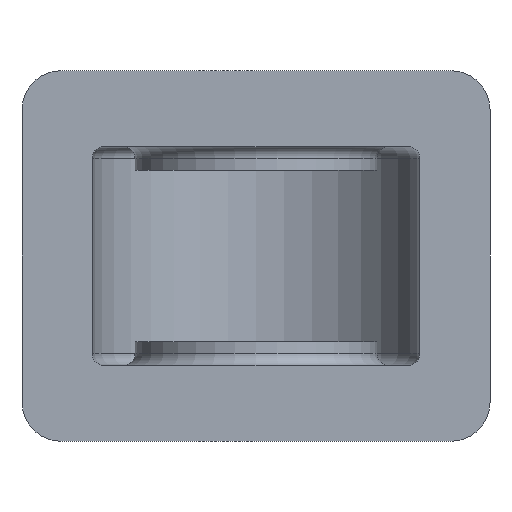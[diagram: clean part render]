
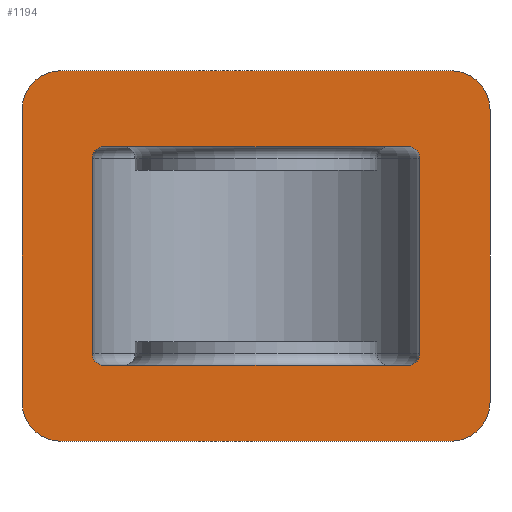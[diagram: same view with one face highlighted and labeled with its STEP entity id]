
A CAD part, front view. The second image highlights one B-rep face of the part: STEP entity #1194.
In plain terms, the highlighted planar face has unit normal (0, -1, 0).
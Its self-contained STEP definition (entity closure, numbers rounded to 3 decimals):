
#26=LINE('',#1964,#78);
#29=LINE('',#1972,#81);
#46=LINE('',#2056,#98);
#49=LINE('',#2073,#101);
#54=LINE('',#2098,#106);
#56=LINE('',#2104,#108);
#62=LINE('',#2135,#114);
#64=LINE('',#2139,#116);
#78=VECTOR('',#1584,10.);
#81=VECTOR('',#1593,10.);
#98=VECTOR('',#1688,10.);
#101=VECTOR('',#1705,10.);
#106=VECTOR('',#1736,10.);
#108=VECTOR('',#1744,10.);
#114=VECTOR('',#1784,10.);
#116=VECTOR('',#1790,10.);
#156=PLANE('',#1396);
#238=FACE_BOUND('',#454,.T.);
#324=FACE_OUTER_BOUND('',#453,.T.);
#453=EDGE_LOOP('',(#1083,#1084,#1085,#1086,#1087,#1088,#1089,#1090));
#454=EDGE_LOOP('',(#1091,#1092,#1093,#1094,#1095,#1096,#1097,#1098));
#502=CIRCLE('',#1300,10.);
#503=CIRCLE('',#1303,10.);
#535=CIRCLE('',#1362,10.);
#536=CIRCLE('',#1365,10.);
#538=CIRCLE('',#1369,3.);
#541=CIRCLE('',#1374,3.);
#543=CIRCLE('',#1377,3.);
#546=CIRCLE('',#1382,3.);
#598=VERTEX_POINT('',#1956);
#599=VERTEX_POINT('',#1958);
#600=VERTEX_POINT('',#1962);
#601=VERTEX_POINT('',#1966);
#602=VERTEX_POINT('',#1970);
#628=VERTEX_POINT('',#2050);
#630=VERTEX_POINT('',#2054);
#635=VERTEX_POINT('',#2067);
#637=VERTEX_POINT('',#2071);
#643=VERTEX_POINT('',#2092);
#644=VERTEX_POINT('',#2096);
#645=VERTEX_POINT('',#2100);
#647=VERTEX_POINT('',#2108);
#649=VERTEX_POINT('',#2116);
#651=VERTEX_POINT('',#2122);
#653=VERTEX_POINT('',#2130);
#711=EDGE_CURVE('',#598,#599,#502,.T.);
#714=EDGE_CURVE('',#600,#598,#26,.T.);
#716=EDGE_CURVE('',#601,#600,#503,.T.);
#718=EDGE_CURVE('',#602,#601,#29,.T.);
#758=EDGE_CURVE('',#628,#630,#46,.T.);
#765=EDGE_CURVE('',#635,#637,#49,.T.);
#773=EDGE_CURVE('',#643,#602,#535,.T.);
#775=EDGE_CURVE('',#644,#643,#54,.T.);
#777=EDGE_CURVE('',#645,#644,#536,.T.);
#778=EDGE_CURVE('',#599,#645,#56,.T.);
#781=EDGE_CURVE('',#647,#637,#538,.T.);
#784=EDGE_CURVE('',#635,#649,#541,.T.);
#788=EDGE_CURVE('',#651,#630,#543,.T.);
#791=EDGE_CURVE('',#628,#653,#546,.T.);
#794=EDGE_CURVE('',#647,#653,#62,.T.);
#796=EDGE_CURVE('',#651,#649,#64,.T.);
#1083=ORIENTED_EDGE('',*,*,#773,.F.);
#1084=ORIENTED_EDGE('',*,*,#775,.F.);
#1085=ORIENTED_EDGE('',*,*,#777,.F.);
#1086=ORIENTED_EDGE('',*,*,#778,.F.);
#1087=ORIENTED_EDGE('',*,*,#711,.F.);
#1088=ORIENTED_EDGE('',*,*,#714,.F.);
#1089=ORIENTED_EDGE('',*,*,#716,.F.);
#1090=ORIENTED_EDGE('',*,*,#718,.F.);
#1091=ORIENTED_EDGE('',*,*,#758,.T.);
#1092=ORIENTED_EDGE('',*,*,#788,.F.);
#1093=ORIENTED_EDGE('',*,*,#796,.T.);
#1094=ORIENTED_EDGE('',*,*,#784,.F.);
#1095=ORIENTED_EDGE('',*,*,#765,.T.);
#1096=ORIENTED_EDGE('',*,*,#781,.F.);
#1097=ORIENTED_EDGE('',*,*,#794,.T.);
#1098=ORIENTED_EDGE('',*,*,#791,.F.);
#1194=ADVANCED_FACE('',(#324,#238),#156,.T.);
#1300=AXIS2_PLACEMENT_3D('',#1959,#1578,#1579);
#1303=AXIS2_PLACEMENT_3D('',#1968,#1588,#1589);
#1362=AXIS2_PLACEMENT_3D('',#2094,#1731,#1732);
#1365=AXIS2_PLACEMENT_3D('',#2102,#1740,#1741);
#1369=AXIS2_PLACEMENT_3D('',#2110,#1750,#1751);
#1374=AXIS2_PLACEMENT_3D('',#2117,#1760,#1761);
#1377=AXIS2_PLACEMENT_3D('',#2124,#1768,#1769);
#1382=AXIS2_PLACEMENT_3D('',#2131,#1778,#1779);
#1396=AXIS2_PLACEMENT_3D('',#2153,#1813,#1814);
#1578=DIRECTION('center_axis',(0.,1.,0.));
#1579=DIRECTION('ref_axis',(0.707,0.,-0.707));
#1584=DIRECTION('',(0.,0.,-1.));
#1588=DIRECTION('center_axis',(0.,1.,0.));
#1589=DIRECTION('ref_axis',(0.707,0.,0.707));
#1593=DIRECTION('',(1.,0.,0.));
#1688=DIRECTION('',(-1.,0.,0.));
#1705=DIRECTION('',(1.,0.,0.));
#1731=DIRECTION('center_axis',(0.,1.,0.));
#1732=DIRECTION('ref_axis',(-0.707,0.,0.707));
#1736=DIRECTION('',(0.,0.,1.));
#1740=DIRECTION('center_axis',(0.,1.,0.));
#1741=DIRECTION('ref_axis',(-0.707,0.,-0.707));
#1744=DIRECTION('',(-1.,0.,0.));
#1750=DIRECTION('center_axis',(0.,-1.,0.));
#1751=DIRECTION('ref_axis',(0.707,0.,0.707));
#1760=DIRECTION('center_axis',(0.,-1.,0.));
#1761=DIRECTION('ref_axis',(-0.707,0.,0.707));
#1768=DIRECTION('center_axis',(0.,-1.,0.));
#1769=DIRECTION('ref_axis',(-0.707,0.,-0.707));
#1778=DIRECTION('center_axis',(0.,-1.,0.));
#1779=DIRECTION('ref_axis',(0.707,0.,-0.707));
#1784=DIRECTION('',(0.,0.,-1.));
#1790=DIRECTION('',(0.,0.,1.));
#1813=DIRECTION('center_axis',(0.,-1.,0.));
#1814=DIRECTION('ref_axis',(1.,0.,0.));
#1956=CARTESIAN_POINT('',(60.,-50.,-37.5));
#1958=CARTESIAN_POINT('',(50.,-50.,-47.5));
#1959=CARTESIAN_POINT('Origin',(50.,-50.,-37.5));
#1962=CARTESIAN_POINT('',(60.,-50.,37.5));
#1964=CARTESIAN_POINT('',(60.,-50.,47.5));
#1966=CARTESIAN_POINT('',(50.,-50.,47.5));
#1968=CARTESIAN_POINT('Origin',(50.,-50.,37.5));
#1970=CARTESIAN_POINT('',(-50.,-50.,47.5));
#1972=CARTESIAN_POINT('',(-60.,-50.,47.5));
#2050=CARTESIAN_POINT('',(39.,-50.,-28.));
#2054=CARTESIAN_POINT('',(-39.,-50.,-28.));
#2056=CARTESIAN_POINT('',(-25.5,-50.,-28.));
#2067=CARTESIAN_POINT('',(-39.,-50.,28.));
#2071=CARTESIAN_POINT('',(39.,-50.,28.));
#2073=CARTESIAN_POINT('',(-25.5,-50.,28.));
#2092=CARTESIAN_POINT('',(-60.,-50.,37.5));
#2094=CARTESIAN_POINT('Origin',(-50.,-50.,37.5));
#2096=CARTESIAN_POINT('',(-60.,-50.,-37.5));
#2098=CARTESIAN_POINT('',(-60.,-50.,-47.5));
#2100=CARTESIAN_POINT('',(-50.,-50.,-47.5));
#2102=CARTESIAN_POINT('Origin',(-50.,-50.,-37.5));
#2104=CARTESIAN_POINT('',(60.,-50.,-47.5));
#2108=CARTESIAN_POINT('',(42.,-50.,25.));
#2110=CARTESIAN_POINT('Origin',(39.,-50.,25.));
#2116=CARTESIAN_POINT('',(-42.,-50.,25.));
#2117=CARTESIAN_POINT('Origin',(-39.,-50.,25.));
#2122=CARTESIAN_POINT('',(-42.,-50.,-25.));
#2124=CARTESIAN_POINT('Origin',(-39.,-50.,-25.));
#2130=CARTESIAN_POINT('',(42.,-50.,-25.));
#2131=CARTESIAN_POINT('Origin',(39.,-50.,-25.));
#2135=CARTESIAN_POINT('',(42.,-50.,0.));
#2139=CARTESIAN_POINT('',(-42.,-50.,0.));
#2153=CARTESIAN_POINT('Origin',(-51.,-50.,0.));
